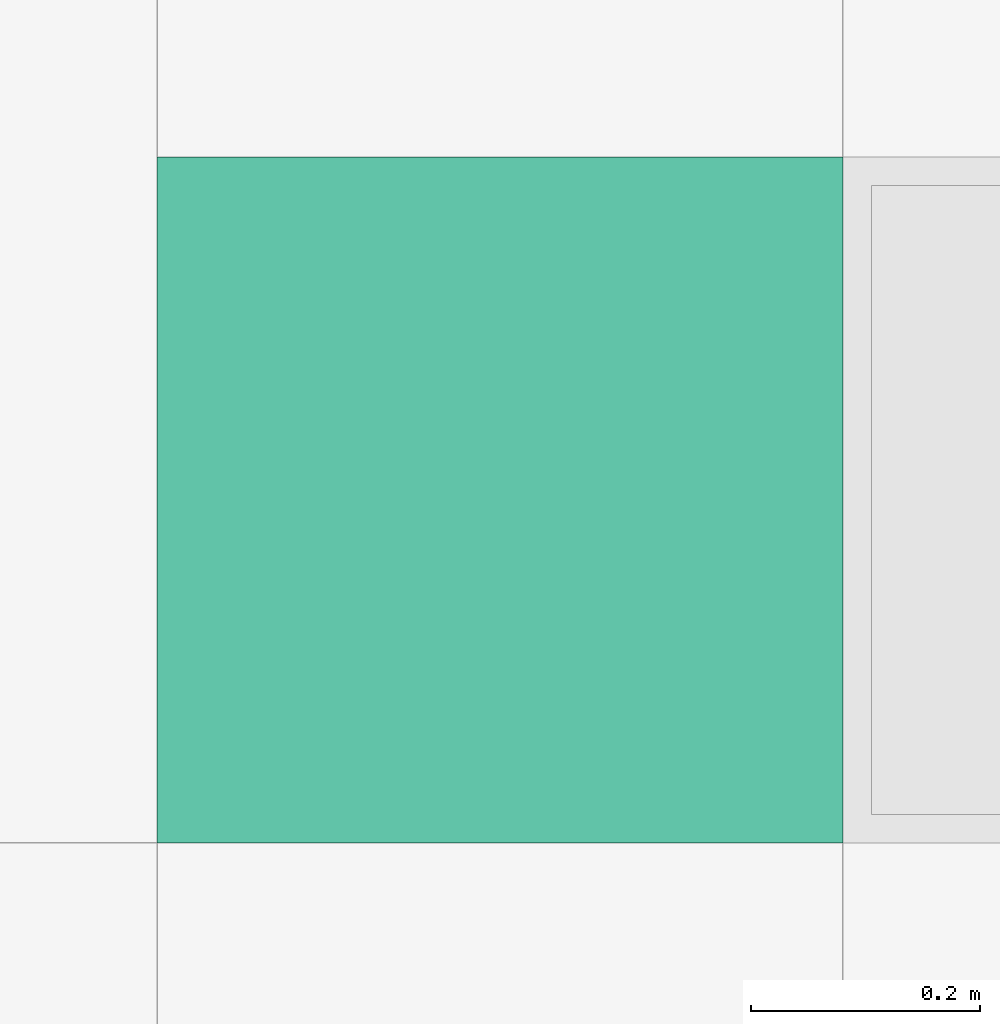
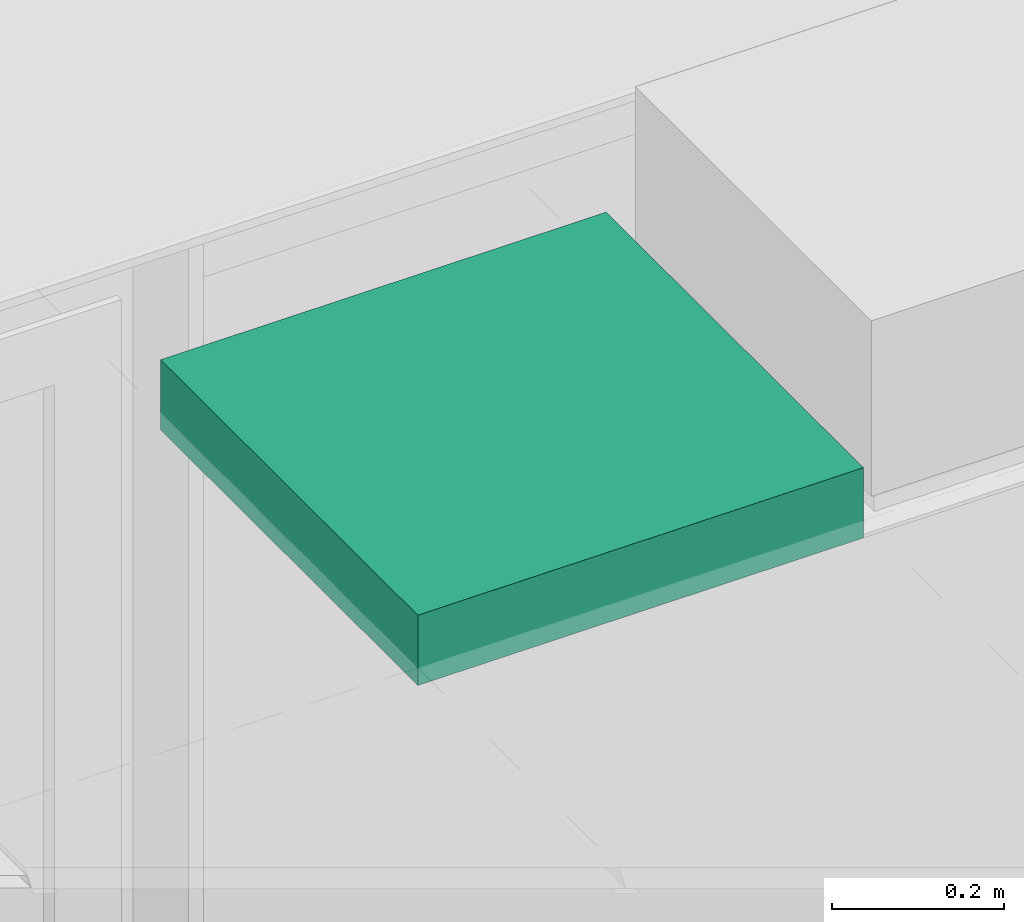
# One storey, part 282 of 347: 1 flow terminal.
"""IFC2X3 building model written with IfcOpenShell, lengths in millimetres."""

from ifc_helpers import new_model, entity, si_unit, converted_unit, derived_unit, money_unit, direction, frame, origin_with_axes, place, context, subcontext, project, spatial, open_shell, faceted_brep, surface_model, source, transform, mapped, type_object, type_shapes, element, save


model = new_model("IFC2X3")

# Units and contexts
model_context = context("Model", 3, precision=0.01, world=origin_with_axes(), true_north=direction((0.0, 1.0)))
plan_context = context("Plan", 3, precision=0.01, world=origin_with_axes(), true_north=direction((0.0, 1.0)))
body_context = subcontext(model_context, "Body", "Model", "MODEL_VIEW")
ifc_project = project(units=[si_unit("LENGTHUNIT", "METRE", prefix="MILLI"), si_unit("AREAUNIT", "SQUARE_METRE"), si_unit("VOLUMEUNIT", "CUBIC_METRE"), converted_unit("PLANEANGLEUNIT", "DEGREE", entity("IfcPlaneAngleMeasure", 0.0174532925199), si_unit("PLANEANGLEUNIT", "RADIAN"), dimensions=[0, 0, 0, 0, 0, 0, 0]), money_unit("EUR"), converted_unit("TIMEUNIT", "Year", entity("IfcTimeMeasure", 31556926.0), si_unit("TIMEUNIT", "SECOND"), dimensions=[0, 0, 1, 0, 0, 0, 0]), si_unit("MASSUNIT", "GRAM", prefix="KILO"), si_unit("THERMODYNAMICTEMPERATUREUNIT", "DEGREE_CELSIUS"), si_unit("LUMINOUSINTENSITYUNIT", "LUMEN"), si_unit("ENERGYUNIT", "JOULE", prefix="MEGA"), derived_unit("THERMALCONDUCTANCEUNIT", [(si_unit("POWERUNIT", "WATT"), 1), (si_unit("LENGTHUNIT", "METRE"), -1), (si_unit("THERMODYNAMICTEMPERATUREUNIT", "KELVIN"), -1)]), derived_unit("SPECIFICHEATCAPACITYUNIT", [(si_unit("ENERGYUNIT", "JOULE"), 1), (si_unit("MASSUNIT", "GRAM", prefix="KILO"), -1), (si_unit("THERMODYNAMICTEMPERATUREUNIT", "KELVIN"), -1)]), derived_unit("MASSDENSITYUNIT", [(si_unit("MASSUNIT", "GRAM", prefix="KILO"), 1), (si_unit("VOLUMEUNIT", "CUBIC_METRE"), -1)])], contexts=[model_context, plan_context])

# Site, building, storey
site_placement = place(None, origin_with_axes())
site = spatial("IfcSite", under=ifc_project, at=site_placement, Name="Site", CompositionType="ELEMENT")
building_placement = place(site_placement, origin_with_axes())
building = spatial("IfcBuilding", under=site, at=building_placement, Name="Naam gebouw", CompositionType="ELEMENT")
storey_placement = place(building_placement, origin_with_axes())
storey = spatial("IfcBuildingStorey", under=building, at=storey_placement, Name="begane grond", CompositionType="ELEMENT", Elevation=0.0)

# Flow terminal
lamp_type = type_object("IfcLampType", Name="TL plafond 25", PredefinedType="NOTDEFINED")
shared_shape = source(origin_with_axes(), body_context, "Body", "SurfaceModel", [
    faceted_brep([(0.0, 0.0, -100.0), (600.0, 0.0, -100.0), (600.0, 0.0, 0.0), (0.0, 0.0, 0.0), (0.0, 600.0, -100.0), (600.0, 600.0, -100.0), (40.0, 40.0, -100.0), (560.0, 40.0, -100.0), (560.0, 560.0, -100.0), (40.0, 560.0, -100.0), (600.0, 600.0, 0.0), (0.0, 600.0, 0.0), (40.0, 40.0, 0.0), (40.0, 560.0, 0.0), (560.0, 560.0, 0.0), (560.0, 40.0, 0.0)], [[[0, 1, 2, 3]], [[0, 4, 5, 1], [6, 7, 8, 9]], [[1, 5, 10, 2]], [[3, 2, 10, 11], [12, 13, 14, 15]], [[4, 0, 3, 11]], [[5, 4, 11, 10]], [[7, 6, 12, 15]], [[8, 7, 15, 14]], [[9, 8, 14, 13]], [[6, 9, 13, 12]]]),
    faceted_brep([(40.0, 40.0, -16.3333333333), (560.0, 40.0, -16.3333333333), (560.0, 40.0, 0.0), (40.0, 40.0, 0.0), (40.0, 560.0, -16.3333333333), (560.0, 560.0, -16.3333333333), (560.0, 560.0, 0.0), (40.0, 560.0, 0.0)], [[[0, 1, 2, 3]], [[0, 4, 5, 1]], [[1, 5, 6, 2]], [[3, 2, 6, 7]], [[4, 0, 3, 7]], [[5, 4, 7, 6]]]),
    surface_model("IfcShellBasedSurfaceModel", [(559.0, 41.0, -100.0), (40.0, 41.0, -100.0), (40.0, 559.0, -100.0), (559.0, 559.0, -100.0)], [open_shell([[[0, 1, 2, 3]]])]),
    faceted_brep([(40.0, 40.0, -100.0), (560.0, 40.0, -100.0), (560.0, 40.0, -60.0), (40.0, 40.0, -60.0), (40.0, 560.0, -100.0), (560.0, 560.0, -100.0), (41.0, 41.0, -100.0), (559.0, 41.0, -100.0), (559.0, 559.0, -100.0), (41.0, 559.0, -100.0), (560.0, 560.0, -60.0), (40.0, 560.0, -60.0), (41.0, 41.0, -60.0), (41.0, 559.0, -60.0), (559.0, 559.0, -60.0), (559.0, 41.0, -60.0)], [[[0, 1, 2, 3]], [[0, 4, 5, 1], [6, 7, 8, 9]], [[1, 5, 10, 2]], [[3, 2, 10, 11], [12, 13, 14, 15]], [[4, 0, 3, 11]], [[5, 4, 11, 10]], [[7, 6, 12, 15]], [[8, 7, 15, 14]], [[9, 8, 14, 13]], [[6, 9, 13, 12]]]),
    faceted_brep([(40.0, 144.0, -48.3333333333), (40.0, 149.740251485, -47.191526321), (560.0, 149.740251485, -47.191526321), (560.0, 144.0, -48.3333333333), (40.0, 138.259748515, -47.191526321), (40.0, 133.393398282, -43.9399350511), (40.0, 130.141807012, -39.0735848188), (40.0, 129.0, -33.3333333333), (40.0, 130.141807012, -27.5930818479), (40.0, 133.393398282, -22.7267316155), (40.0, 138.259748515, -19.4751403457), (40.0, 144.0, -18.3333333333), (40.0, 149.740251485, -19.4751403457), (40.0, 154.606601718, -22.7267316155), (40.0, 157.858192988, -27.5930818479), (40.0, 159.0, -33.3333333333), (40.0, 157.858192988, -39.0735848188), (40.0, 154.606601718, -43.9399350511), (40.0, 144.0, -46.3333333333), (40.0, 148.974884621, -45.343767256), (40.0, 153.192388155, -42.5257214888), (40.0, 156.010433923, -38.3082179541), (40.0, 157.0, -33.3333333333), (40.0, 156.010433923, -28.3584487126), (40.0, 153.192388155, -24.1409451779), (40.0, 148.974884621, -21.3228994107), (40.0, 144.0, -20.3333333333), (40.0, 139.025115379, -21.3228994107), (40.0, 134.807611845, -24.1409451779), (40.0, 131.989566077, -28.3584487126), (40.0, 131.0, -33.3333333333), (40.0, 131.989566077, -38.3082179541), (40.0, 134.807611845, -42.5257214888), (40.0, 139.025115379, -45.343767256), (560.0, 154.606601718, -43.9399350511), (560.0, 157.858192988, -39.0735848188), (560.0, 159.0, -33.3333333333), (560.0, 157.858192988, -27.5930818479), (560.0, 154.606601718, -22.7267316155), (560.0, 149.740251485, -19.4751403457), (560.0, 144.0, -18.3333333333), (560.0, 138.259748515, -19.4751403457), (560.0, 133.393398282, -22.7267316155), (560.0, 130.141807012, -27.5930818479), (560.0, 129.0, -33.3333333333), (560.0, 130.141807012, -39.0735848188), (560.0, 133.393398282, -43.9399350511), (560.0, 138.259748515, -47.191526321), (560.0, 144.0, -46.3333333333), (560.0, 139.025115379, -45.343767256), (560.0, 134.807611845, -42.5257214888), (560.0, 131.989566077, -38.3082179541), (560.0, 131.0, -33.3333333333), (560.0, 131.989566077, -28.3584487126), (560.0, 134.807611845, -24.1409451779), (560.0, 139.025115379, -21.3228994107), (560.0, 144.0, -20.3333333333), (560.0, 148.974884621, -21.3228994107), (560.0, 153.192388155, -24.1409451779), (560.0, 156.010433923, -28.3584487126), (560.0, 157.0, -33.3333333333), (560.0, 156.010433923, -38.3082179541), (560.0, 153.192388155, -42.5257214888), (560.0, 148.974884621, -45.343767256)], [[[0, 1, 2, 3]], [[0, 4, 5, 6, 7, 8, 9, 10, 11, 12, 13, 14, 15, 16, 17, 1], [18, 19, 20, 21, 22, 23, 24, 25, 26, 27, 28, 29, 30, 31, 32, 33]], [[1, 17, 34, 2]], [[3, 2, 34, 35, 36, 37, 38, 39, 40, 41, 42, 43, 44, 45, 46, 47], [48, 49, 50, 51, 52, 53, 54, 55, 56, 57, 58, 59, 60, 61, 62, 63]], [[4, 0, 3, 47]], [[5, 4, 47, 46]], [[6, 5, 46, 45]], [[7, 6, 45, 44]], [[8, 7, 44, 43]], [[9, 8, 43, 42]], [[10, 9, 42, 41]], [[11, 10, 41, 40]], [[12, 11, 40, 39]], [[13, 12, 39, 38]], [[14, 13, 38, 37]], [[15, 14, 37, 36]], [[16, 15, 36, 35]], [[17, 16, 35, 34]], [[19, 18, 48, 63]], [[20, 19, 63, 62]], [[21, 20, 62, 61]], [[22, 21, 61, 60]], [[23, 22, 60, 59]], [[24, 23, 59, 58]], [[25, 24, 58, 57]], [[26, 25, 57, 56]], [[27, 26, 56, 55]], [[28, 27, 55, 54]], [[29, 28, 54, 53]], [[30, 29, 53, 52]], [[31, 30, 52, 51]], [[32, 31, 51, 50]], [[33, 32, 50, 49]], [[18, 33, 49, 48]]]),
    faceted_brep([(40.0, 248.0, -48.3333333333), (40.0, 253.740251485, -47.191526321), (560.0, 253.740251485, -47.191526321), (560.0, 248.0, -48.3333333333), (40.0, 242.259748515, -47.191526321), (40.0, 237.393398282, -43.9399350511), (40.0, 234.141807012, -39.0735848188), (40.0, 233.0, -33.3333333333), (40.0, 234.141807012, -27.5930818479), (40.0, 237.393398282, -22.7267316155), (40.0, 242.259748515, -19.4751403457), (40.0, 248.0, -18.3333333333), (40.0, 253.740251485, -19.4751403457), (40.0, 258.606601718, -22.7267316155), (40.0, 261.858192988, -27.5930818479), (40.0, 263.0, -33.3333333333), (40.0, 261.858192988, -39.0735848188), (40.0, 258.606601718, -43.9399350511), (40.0, 248.0, -46.3333333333), (40.0, 252.974884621, -45.343767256), (40.0, 257.192388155, -42.5257214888), (40.0, 260.010433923, -38.3082179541), (40.0, 261.0, -33.3333333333), (40.0, 260.010433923, -28.3584487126), (40.0, 257.192388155, -24.1409451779), (40.0, 252.974884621, -21.3228994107), (40.0, 248.0, -20.3333333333), (40.0, 243.025115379, -21.3228994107), (40.0, 238.807611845, -24.1409451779), (40.0, 235.989566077, -28.3584487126), (40.0, 235.0, -33.3333333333), (40.0, 235.989566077, -38.3082179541), (40.0, 238.807611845, -42.5257214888), (40.0, 243.025115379, -45.343767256), (560.0, 258.606601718, -43.9399350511), (560.0, 261.858192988, -39.0735848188), (560.0, 263.0, -33.3333333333), (560.0, 261.858192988, -27.5930818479), (560.0, 258.606601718, -22.7267316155), (560.0, 253.740251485, -19.4751403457), (560.0, 248.0, -18.3333333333), (560.0, 242.259748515, -19.4751403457), (560.0, 237.393398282, -22.7267316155), (560.0, 234.141807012, -27.5930818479), (560.0, 233.0, -33.3333333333), (560.0, 234.141807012, -39.0735848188), (560.0, 237.393398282, -43.9399350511), (560.0, 242.259748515, -47.191526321), (560.0, 248.0, -46.3333333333), (560.0, 243.025115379, -45.343767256), (560.0, 238.807611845, -42.5257214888), (560.0, 235.989566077, -38.3082179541), (560.0, 235.0, -33.3333333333), (560.0, 235.989566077, -28.3584487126), (560.0, 238.807611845, -24.1409451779), (560.0, 243.025115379, -21.3228994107), (560.0, 248.0, -20.3333333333), (560.0, 252.974884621, -21.3228994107), (560.0, 257.192388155, -24.1409451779), (560.0, 260.010433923, -28.3584487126), (560.0, 261.0, -33.3333333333), (560.0, 260.010433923, -38.3082179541), (560.0, 257.192388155, -42.5257214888), (560.0, 252.974884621, -45.343767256)], [[[0, 1, 2, 3]], [[0, 4, 5, 6, 7, 8, 9, 10, 11, 12, 13, 14, 15, 16, 17, 1], [18, 19, 20, 21, 22, 23, 24, 25, 26, 27, 28, 29, 30, 31, 32, 33]], [[1, 17, 34, 2]], [[3, 2, 34, 35, 36, 37, 38, 39, 40, 41, 42, 43, 44, 45, 46, 47], [48, 49, 50, 51, 52, 53, 54, 55, 56, 57, 58, 59, 60, 61, 62, 63]], [[4, 0, 3, 47]], [[5, 4, 47, 46]], [[6, 5, 46, 45]], [[7, 6, 45, 44]], [[8, 7, 44, 43]], [[9, 8, 43, 42]], [[10, 9, 42, 41]], [[11, 10, 41, 40]], [[12, 11, 40, 39]], [[13, 12, 39, 38]], [[14, 13, 38, 37]], [[15, 14, 37, 36]], [[16, 15, 36, 35]], [[17, 16, 35, 34]], [[19, 18, 48, 63]], [[20, 19, 63, 62]], [[21, 20, 62, 61]], [[22, 21, 61, 60]], [[23, 22, 60, 59]], [[24, 23, 59, 58]], [[25, 24, 58, 57]], [[26, 25, 57, 56]], [[27, 26, 56, 55]], [[28, 27, 55, 54]], [[29, 28, 54, 53]], [[30, 29, 53, 52]], [[31, 30, 52, 51]], [[32, 31, 51, 50]], [[33, 32, 50, 49]], [[18, 33, 49, 48]]]),
    faceted_brep([(40.0, 352.0, -48.3333333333), (40.0, 357.740251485, -47.191526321), (560.0, 357.740251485, -47.191526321), (560.0, 352.0, -48.3333333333), (40.0, 346.259748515, -47.191526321), (40.0, 341.393398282, -43.9399350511), (40.0, 338.141807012, -39.0735848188), (40.0, 337.0, -33.3333333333), (40.0, 338.141807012, -27.5930818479), (40.0, 341.393398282, -22.7267316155), (40.0, 346.259748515, -19.4751403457), (40.0, 352.0, -18.3333333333), (40.0, 357.740251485, -19.4751403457), (40.0, 362.606601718, -22.7267316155), (40.0, 365.858192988, -27.5930818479), (40.0, 367.0, -33.3333333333), (40.0, 365.858192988, -39.0735848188), (40.0, 362.606601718, -43.9399350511), (40.0, 352.0, -46.3333333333), (40.0, 356.974884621, -45.343767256), (40.0, 361.192388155, -42.5257214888), (40.0, 364.010433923, -38.3082179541), (40.0, 365.0, -33.3333333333), (40.0, 364.010433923, -28.3584487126), (40.0, 361.192388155, -24.1409451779), (40.0, 356.974884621, -21.3228994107), (40.0, 352.0, -20.3333333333), (40.0, 347.025115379, -21.3228994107), (40.0, 342.807611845, -24.1409451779), (40.0, 339.989566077, -28.3584487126), (40.0, 339.0, -33.3333333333), (40.0, 339.989566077, -38.3082179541), (40.0, 342.807611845, -42.5257214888), (40.0, 347.025115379, -45.343767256), (560.0, 362.606601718, -43.9399350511), (560.0, 365.858192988, -39.0735848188), (560.0, 367.0, -33.3333333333), (560.0, 365.858192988, -27.5930818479), (560.0, 362.606601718, -22.7267316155), (560.0, 357.740251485, -19.4751403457), (560.0, 352.0, -18.3333333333), (560.0, 346.259748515, -19.4751403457), (560.0, 341.393398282, -22.7267316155), (560.0, 338.141807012, -27.5930818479), (560.0, 337.0, -33.3333333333), (560.0, 338.141807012, -39.0735848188), (560.0, 341.393398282, -43.9399350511), (560.0, 346.259748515, -47.191526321), (560.0, 352.0, -46.3333333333), (560.0, 347.025115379, -45.343767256), (560.0, 342.807611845, -42.5257214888), (560.0, 339.989566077, -38.3082179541), (560.0, 339.0, -33.3333333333), (560.0, 339.989566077, -28.3584487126), (560.0, 342.807611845, -24.1409451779), (560.0, 347.025115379, -21.3228994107), (560.0, 352.0, -20.3333333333), (560.0, 356.974884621, -21.3228994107), (560.0, 361.192388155, -24.1409451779), (560.0, 364.010433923, -28.3584487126), (560.0, 365.0, -33.3333333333), (560.0, 364.010433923, -38.3082179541), (560.0, 361.192388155, -42.5257214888), (560.0, 356.974884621, -45.343767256)], [[[0, 1, 2, 3]], [[0, 4, 5, 6, 7, 8, 9, 10, 11, 12, 13, 14, 15, 16, 17, 1], [18, 19, 20, 21, 22, 23, 24, 25, 26, 27, 28, 29, 30, 31, 32, 33]], [[1, 17, 34, 2]], [[3, 2, 34, 35, 36, 37, 38, 39, 40, 41, 42, 43, 44, 45, 46, 47], [48, 49, 50, 51, 52, 53, 54, 55, 56, 57, 58, 59, 60, 61, 62, 63]], [[4, 0, 3, 47]], [[5, 4, 47, 46]], [[6, 5, 46, 45]], [[7, 6, 45, 44]], [[8, 7, 44, 43]], [[9, 8, 43, 42]], [[10, 9, 42, 41]], [[11, 10, 41, 40]], [[12, 11, 40, 39]], [[13, 12, 39, 38]], [[14, 13, 38, 37]], [[15, 14, 37, 36]], [[16, 15, 36, 35]], [[17, 16, 35, 34]], [[19, 18, 48, 63]], [[20, 19, 63, 62]], [[21, 20, 62, 61]], [[22, 21, 61, 60]], [[23, 22, 60, 59]], [[24, 23, 59, 58]], [[25, 24, 58, 57]], [[26, 25, 57, 56]], [[27, 26, 56, 55]], [[28, 27, 55, 54]], [[29, 28, 54, 53]], [[30, 29, 53, 52]], [[31, 30, 52, 51]], [[32, 31, 51, 50]], [[33, 32, 50, 49]], [[18, 33, 49, 48]]]),
    faceted_brep([(40.0, 456.0, -48.3333333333), (40.0, 461.740251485, -47.191526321), (560.0, 461.740251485, -47.191526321), (560.0, 456.0, -48.3333333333), (40.0, 450.259748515, -47.191526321), (40.0, 445.393398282, -43.9399350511), (40.0, 442.141807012, -39.0735848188), (40.0, 441.0, -33.3333333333), (40.0, 442.141807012, -27.5930818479), (40.0, 445.393398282, -22.7267316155), (40.0, 450.259748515, -19.4751403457), (40.0, 456.0, -18.3333333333), (40.0, 461.740251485, -19.4751403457), (40.0, 466.606601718, -22.7267316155), (40.0, 469.858192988, -27.5930818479), (40.0, 471.0, -33.3333333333), (40.0, 469.858192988, -39.0735848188), (40.0, 466.606601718, -43.9399350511), (40.0, 456.0, -46.3333333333), (40.0, 460.974884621, -45.343767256), (40.0, 465.192388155, -42.5257214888), (40.0, 468.010433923, -38.3082179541), (40.0, 469.0, -33.3333333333), (40.0, 468.010433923, -28.3584487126), (40.0, 465.192388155, -24.1409451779), (40.0, 460.974884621, -21.3228994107), (40.0, 456.0, -20.3333333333), (40.0, 451.025115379, -21.3228994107), (40.0, 446.807611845, -24.1409451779), (40.0, 443.989566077, -28.3584487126), (40.0, 443.0, -33.3333333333), (40.0, 443.989566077, -38.3082179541), (40.0, 446.807611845, -42.5257214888), (40.0, 451.025115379, -45.343767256), (560.0, 466.606601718, -43.9399350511), (560.0, 469.858192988, -39.0735848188), (560.0, 471.0, -33.3333333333), (560.0, 469.858192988, -27.5930818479), (560.0, 466.606601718, -22.7267316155), (560.0, 461.740251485, -19.4751403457), (560.0, 456.0, -18.3333333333), (560.0, 450.259748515, -19.4751403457), (560.0, 445.393398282, -22.7267316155), (560.0, 442.141807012, -27.5930818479), (560.0, 441.0, -33.3333333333), (560.0, 442.141807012, -39.0735848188), (560.0, 445.393398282, -43.9399350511), (560.0, 450.259748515, -47.191526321), (560.0, 456.0, -46.3333333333), (560.0, 451.025115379, -45.343767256), (560.0, 446.807611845, -42.5257214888), (560.0, 443.989566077, -38.3082179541), (560.0, 443.0, -33.3333333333), (560.0, 443.989566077, -28.3584487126), (560.0, 446.807611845, -24.1409451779), (560.0, 451.025115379, -21.3228994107), (560.0, 456.0, -20.3333333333), (560.0, 460.974884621, -21.3228994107), (560.0, 465.192388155, -24.1409451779), (560.0, 468.010433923, -28.3584487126), (560.0, 469.0, -33.3333333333), (560.0, 468.010433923, -38.3082179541), (560.0, 465.192388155, -42.5257214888), (560.0, 460.974884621, -45.343767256)], [[[0, 1, 2, 3]], [[0, 4, 5, 6, 7, 8, 9, 10, 11, 12, 13, 14, 15, 16, 17, 1], [18, 19, 20, 21, 22, 23, 24, 25, 26, 27, 28, 29, 30, 31, 32, 33]], [[1, 17, 34, 2]], [[3, 2, 34, 35, 36, 37, 38, 39, 40, 41, 42, 43, 44, 45, 46, 47], [48, 49, 50, 51, 52, 53, 54, 55, 56, 57, 58, 59, 60, 61, 62, 63]], [[4, 0, 3, 47]], [[5, 4, 47, 46]], [[6, 5, 46, 45]], [[7, 6, 45, 44]], [[8, 7, 44, 43]], [[9, 8, 43, 42]], [[10, 9, 42, 41]], [[11, 10, 41, 40]], [[12, 11, 40, 39]], [[13, 12, 39, 38]], [[14, 13, 38, 37]], [[15, 14, 37, 36]], [[16, 15, 36, 35]], [[17, 16, 35, 34]], [[19, 18, 48, 63]], [[20, 19, 63, 62]], [[21, 20, 62, 61]], [[22, 21, 61, 60]], [[23, 22, 60, 59]], [[24, 23, 59, 58]], [[25, 24, 58, 57]], [[26, 25, 57, 56]], [[27, 26, 56, 55]], [[28, 27, 55, 54]], [[29, 28, 54, 53]], [[30, 29, 53, 52]], [[31, 30, 52, 51]], [[32, 31, 51, 50]], [[33, 32, 50, 49]], [[18, 33, 49, 48]]]),
])
type_shapes(lamp_type, [shared_shape])
flow_terminal_placement = place(storey_placement, frame((25475.0000001, 45390.5011494, 3295.0), z_axis=(0.0, 0.0, 1.0), x_axis=(1.0, 0.0, 0.0)))
element("IfcFlowTerminal", 1, at=flow_terminal_placement, inside=storey, type_object=lamp_type, Name="63_Lamp-x", ObjectType="Lamp", context=body_context, shape_type="MappedRepresentation", body=[
    mapped(shared_shape, transform((0.0, 0.0, 0.0))),
])

save(model, "model.ifc")
